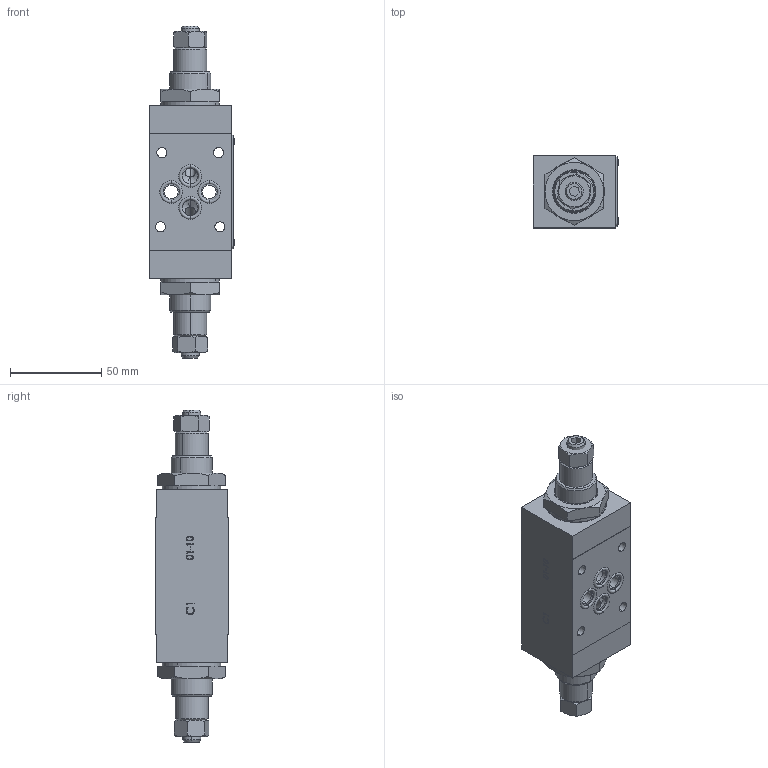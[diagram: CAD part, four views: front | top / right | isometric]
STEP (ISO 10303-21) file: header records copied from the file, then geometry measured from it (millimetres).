
FILE_DESCRIPTION (( 'STEP AP214' ), '1' );
FILE_NAME ('FT358-5-AB-03.STEP', '2014-06-18T06:30:28', ( '' ), ( '' ), 'SwSTEP 2.0', 'SolidWorks 2014', '' );
FILE_SCHEMA (( 'AUTOMOTIVE_DESIGN' ));
Length unit declared in the file: millimetre
Products named in the file (17): 267-5-008001-38; 267-5-002001-38; 257-6-009000-38; 357-5-AB101000; RivettoTarga; 358-5-AB015000; 357-5-AB001000; FT358-5-AB-03; 358-5AB012000; OR2037; OR2068; OR132; AnelloFermoFT1251_2-01-12; BK2018; OR2018; 267-5-018000-38; 358-5-AB017000
Assembly tree (34 placements, depth 2):
  FT358-5-AB-03
    357-5-AB001000
    358-5-AB015000
    RivettoTarga  x4
    357-5-AB101000  x2
    257-6-009000-38  x2
    267-5-002001-38  x2
    267-5-008001-38  x2
    358-5-AB017000  x2
    267-5-018000-38  x2
    OR2018  x2
    BK2018  x2
    AnelloFermoFT1251_2-01-12  x2
    OR132  x2
    OR2068  x2
    OR2037  x4
    358-5AB012000  x2
Bounding box: 46.96 x 40.38 x 181.6 mm (x, y, z)
Volume: 188765.9 mm3; surface area: 73041.7 mm2
Topology: 34 solids, 34 shells, 2213 faces, 5496 edges, 3520 vertices
Faces by surface type: plane 1083, cylinder 418, bspline 396, cone 260, torus 56
Entity records: 93424 total; most frequent: CARTESIAN_POINT 37178, ORIENTED_EDGE 9228, DIRECTION 7235, EDGE_CURVE 4614, LINE 3093, VECTOR 3093, VERTEX_POINT 3008, AXIS2_PLACEMENT_3D 2071
